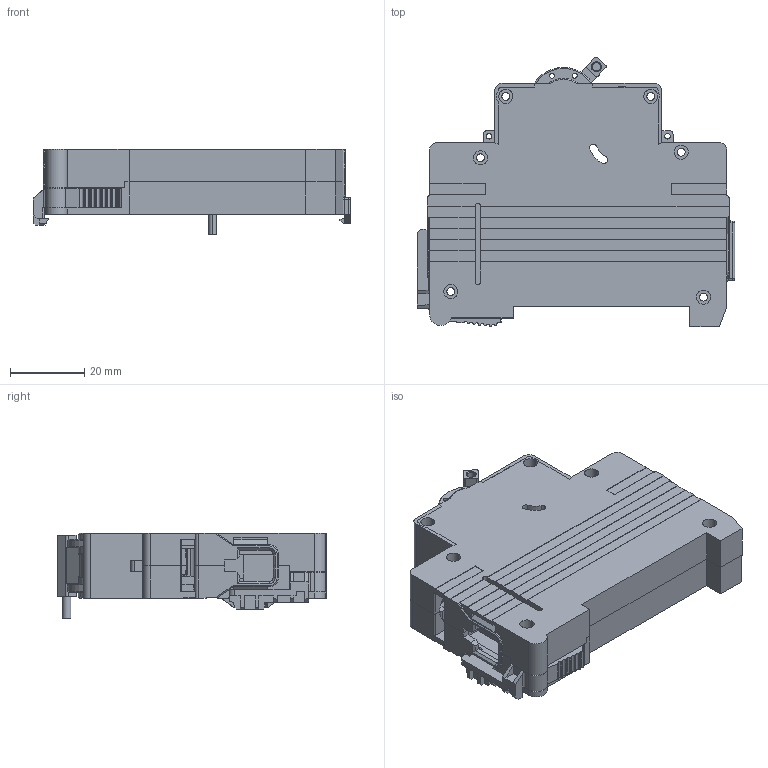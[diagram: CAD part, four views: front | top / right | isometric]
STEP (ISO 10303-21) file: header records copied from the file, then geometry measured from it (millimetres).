
FILE_DESCRIPTION (( 'STEP AP214' ), '1' );
FILE_NAME ('ÍÐ ãàáàðèòíàÿ ìîäåëü.STEP', '2018-03-30T08:08:23', ( '' ), ( '' ), 'SwSTEP 2.0', 'SolidWorks 2018', '' );
FILE_SCHEMA (( 'AUTOMOTIVE_DESIGN' ));
Length unit declared in the file: millimetre
Products named in the file (6): Çàùåëêà ÃÆÈÊ.741358.036; ÃÆÈÊ.735224.118 - Áîêîâèíà ëåâàÿ_Šà¥¯«¥­¨¥ 3 (EATON); ÃÆÈÊ.735224.117- Áîêîâèíà ïðàâàÿ_1; ÍÐ ãàáàðèòíàÿ ìîäåëü; ﾃﾆﾈﾊ.715311.092 - ﾘ; Ðó÷êà ÃÆÈÊ.753725.012
Assembly tree (5 placements, depth 2):
  ÍÐ ãàáàðèòíàÿ ìîäåëü
    ÃÆÈÊ.735224.117- Áîêîâèíà ïðàâàÿ_1
    ÃÆÈÊ.735224.118 - Áîêîâèíà ëåâàÿ_Šà¥¯«¥­¨¥ 3 (EATON)
    Çàùåëêà ÃÆÈÊ.741358.036
    Ðó÷êà ÃÆÈÊ.753725.012
    ﾃﾆﾈﾊ.715311.092 - ﾘ
Bounding box: 85.4 x 72.59 x 23 mm (x, y, z)
Volume: 28549.1 mm3; surface area: 37656.6 mm2
Topology: 5 solids, 5 shells, 1475 faces, 4079 edges, 2647 vertices
Faces by surface type: plane 948, cylinder 461, cone 46, torus 14, sphere 4, bspline 2
Entity records: 47191 total; most frequent: CARTESIAN_POINT 8484, ORIENTED_EDGE 8150, DIRECTION 8002, EDGE_CURVE 4075, LINE 2976, VECTOR 2976, VERTEX_POINT 2647, AXIS2_PLACEMENT_3D 2513
